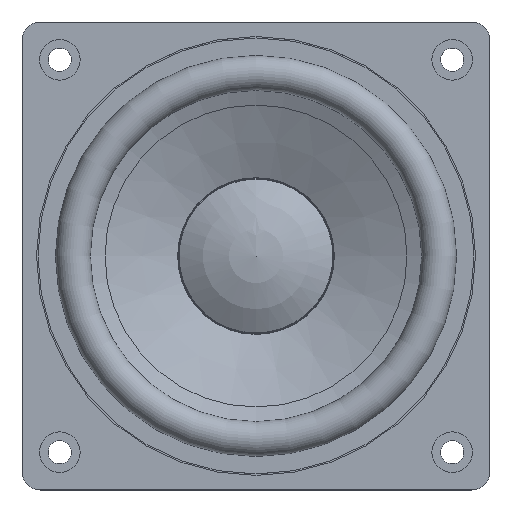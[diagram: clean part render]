
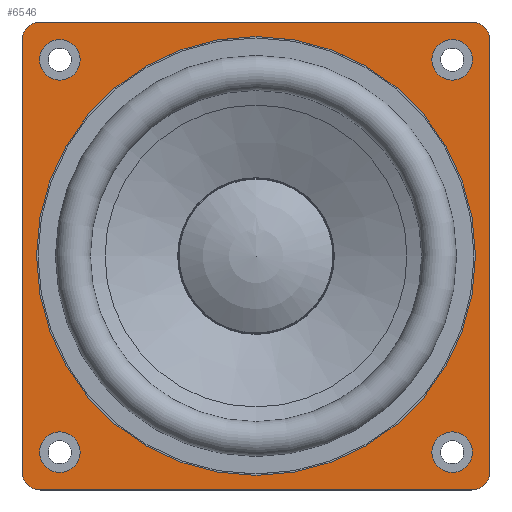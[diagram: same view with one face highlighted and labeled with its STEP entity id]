
A CAD part, top view. The second image highlights one B-rep face of the part: STEP entity #6546.
In plain terms, the highlighted planar face has unit normal (0, 0, 1).
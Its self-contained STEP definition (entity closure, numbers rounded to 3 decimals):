
#314=FACE_BOUND('',#2002,.T.);
#315=FACE_BOUND('',#2003,.T.);
#316=FACE_BOUND('',#2004,.T.);
#317=FACE_BOUND('',#2005,.T.);
#318=FACE_BOUND('',#2006,.T.);
#361=PLANE('',#7064);
#563=LINE('',#13582,#1026);
#566=LINE('',#13590,#1029);
#570=LINE('',#13599,#1033);
#572=LINE('',#13605,#1035);
#1026=VECTOR('',#8061,74.15);
#1029=VECTOR('',#8070,74.15);
#1033=VECTOR('',#8080,74.15);
#1035=VECTOR('',#8088,74.15);
#1621=FACE_OUTER_BOUND('',#2001,.T.);
#2001=EDGE_LOOP('',(#4792,#4793,#4794,#4795,#4796,#4797,#4798,#4799));
#2002=EDGE_LOOP('',(#4800));
#2003=EDGE_LOOP('',(#4801));
#2004=EDGE_LOOP('',(#4802));
#2005=EDGE_LOOP('',(#4803));
#2006=EDGE_LOOP('',(#4804));
#2449=CIRCLE('',#7053,3.175);
#2450=CIRCLE('',#7056,3.175);
#2451=CIRCLE('',#7059,3.175);
#2452=CIRCLE('',#7062,3.175);
#2453=CIRCLE('',#7065,37.75);
#2454=CIRCLE('',#7066,3.5);
#2455=CIRCLE('',#7067,3.5);
#2456=CIRCLE('',#7068,3.5);
#2457=CIRCLE('',#7069,3.5);
#2945=VERTEX_POINT('',#13575);
#2946=VERTEX_POINT('',#13577);
#2947=VERTEX_POINT('',#13581);
#2948=VERTEX_POINT('',#13585);
#2949=VERTEX_POINT('',#13589);
#2950=VERTEX_POINT('',#13593);
#2951=VERTEX_POINT('',#13597);
#2952=VERTEX_POINT('',#13601);
#2953=VERTEX_POINT('',#13607);
#2954=VERTEX_POINT('',#13609);
#2955=VERTEX_POINT('',#13611);
#2956=VERTEX_POINT('',#13613);
#2957=VERTEX_POINT('',#13615);
#3630=EDGE_CURVE('',#2946,#2945,#2449,.T.);
#3632=EDGE_CURVE('',#2947,#2946,#563,.T.);
#3634=EDGE_CURVE('',#2948,#2947,#2450,.T.);
#3636=EDGE_CURVE('',#2949,#2948,#566,.T.);
#3638=EDGE_CURVE('',#2950,#2949,#2451,.T.);
#3641=EDGE_CURVE('',#2951,#2950,#570,.T.);
#3642=EDGE_CURVE('',#2952,#2951,#2452,.T.);
#3644=EDGE_CURVE('',#2945,#2952,#572,.T.);
#3645=EDGE_CURVE('',#2953,#2953,#2453,.T.);
#3646=EDGE_CURVE('',#2954,#2954,#2454,.T.);
#3647=EDGE_CURVE('',#2955,#2955,#2455,.T.);
#3648=EDGE_CURVE('',#2956,#2956,#2456,.T.);
#3649=EDGE_CURVE('',#2957,#2957,#2457,.T.);
#4792=ORIENTED_EDGE('',*,*,#3630,.T.);
#4793=ORIENTED_EDGE('',*,*,#3644,.T.);
#4794=ORIENTED_EDGE('',*,*,#3642,.T.);
#4795=ORIENTED_EDGE('',*,*,#3641,.T.);
#4796=ORIENTED_EDGE('',*,*,#3638,.T.);
#4797=ORIENTED_EDGE('',*,*,#3636,.T.);
#4798=ORIENTED_EDGE('',*,*,#3634,.T.);
#4799=ORIENTED_EDGE('',*,*,#3632,.T.);
#4800=ORIENTED_EDGE('',*,*,#3645,.F.);
#4801=ORIENTED_EDGE('',*,*,#3646,.F.);
#4802=ORIENTED_EDGE('',*,*,#3647,.F.);
#4803=ORIENTED_EDGE('',*,*,#3648,.F.);
#4804=ORIENTED_EDGE('',*,*,#3649,.F.);
#6546=ADVANCED_FACE('',(#1621,#314,#315,#316,#317,#318),#361,.T.);
#7053=AXIS2_PLACEMENT_3D('',#13578,#8056,#8057);
#7056=AXIS2_PLACEMENT_3D('',#13586,#8065,#8066);
#7059=AXIS2_PLACEMENT_3D('',#13594,#8074,#8075);
#7062=AXIS2_PLACEMENT_3D('',#13602,#8083,#8084);
#7064=AXIS2_PLACEMENT_3D('',#13606,#8089,#8090);
#7065=AXIS2_PLACEMENT_3D('',#13608,#8091,#8092);
#7066=AXIS2_PLACEMENT_3D('',#13610,#8093,#8094);
#7067=AXIS2_PLACEMENT_3D('',#13612,#8095,#8096);
#7068=AXIS2_PLACEMENT_3D('',#13614,#8097,#8098);
#7069=AXIS2_PLACEMENT_3D('',#13616,#8099,#8100);
#8056=DIRECTION('center_axis',(0.,0.,1.));
#8057=DIRECTION('ref_axis',(0.,-1.,0.));
#8061=DIRECTION('',(1.,0.,0.));
#8065=DIRECTION('center_axis',(0.,0.,1.));
#8066=DIRECTION('ref_axis',(-1.,0.,0.));
#8070=DIRECTION('',(0.,-1.,0.));
#8074=DIRECTION('center_axis',(0.,0.,1.));
#8075=DIRECTION('ref_axis',(0.,1.,0.));
#8080=DIRECTION('',(-1.,0.,0.));
#8083=DIRECTION('center_axis',(0.,0.,1.));
#8084=DIRECTION('ref_axis',(1.,0.,0.));
#8088=DIRECTION('',(0.,1.,0.));
#8089=DIRECTION('center_axis',(0.,0.,1.));
#8090=DIRECTION('ref_axis',(1.,0.,0.));
#8091=DIRECTION('center_axis',(0.,0.,1.));
#8092=DIRECTION('ref_axis',(1.,0.,0.));
#8093=DIRECTION('center_axis',(0.,0.,1.));
#8094=DIRECTION('ref_axis',(1.,0.,0.));
#8095=DIRECTION('center_axis',(0.,0.,1.));
#8096=DIRECTION('ref_axis',(0.,1.,0.));
#8097=DIRECTION('center_axis',(0.,0.,1.));
#8098=DIRECTION('ref_axis',(-1.,0.,0.));
#8099=DIRECTION('center_axis',(0.,0.,1.));
#8100=DIRECTION('ref_axis',(0.,-1.,0.));
#13575=CARTESIAN_POINT('',(40.25,-37.075,3.5));
#13577=CARTESIAN_POINT('',(37.075,-40.25,3.5));
#13578=CARTESIAN_POINT('Origin',(37.075,-37.075,3.5));
#13581=CARTESIAN_POINT('',(-37.075,-40.25,3.5));
#13582=CARTESIAN_POINT('',(-37.075,-40.25,3.5));
#13585=CARTESIAN_POINT('',(-40.25,-37.075,3.5));
#13586=CARTESIAN_POINT('Origin',(-37.075,-37.075,3.5));
#13589=CARTESIAN_POINT('',(-40.25,37.075,3.5));
#13590=CARTESIAN_POINT('',(-40.25,37.075,3.5));
#13593=CARTESIAN_POINT('',(-37.075,40.25,3.5));
#13594=CARTESIAN_POINT('Origin',(-37.075,37.075,3.5));
#13597=CARTESIAN_POINT('',(37.075,40.25,3.5));
#13599=CARTESIAN_POINT('',(37.075,40.25,3.5));
#13601=CARTESIAN_POINT('',(40.25,37.075,3.5));
#13602=CARTESIAN_POINT('Origin',(37.075,37.075,3.5));
#13605=CARTESIAN_POINT('',(40.25,-37.075,3.5));
#13606=CARTESIAN_POINT('Origin',(0.,0.,3.5));
#13607=CARTESIAN_POINT('',(-37.75,0.,3.5));
#13608=CARTESIAN_POINT('Origin',(0.,0.,3.5));
#13609=CARTESIAN_POINT('',(30.25,33.75,3.5));
#13610=CARTESIAN_POINT('Origin',(33.75,33.75,3.5));
#13611=CARTESIAN_POINT('',(-33.75,30.25,3.5));
#13612=CARTESIAN_POINT('Origin',(-33.75,33.75,3.5));
#13613=CARTESIAN_POINT('',(-30.25,-33.75,3.5));
#13614=CARTESIAN_POINT('Origin',(-33.75,-33.75,3.5));
#13615=CARTESIAN_POINT('',(33.75,-30.25,3.5));
#13616=CARTESIAN_POINT('Origin',(33.75,-33.75,3.5));
